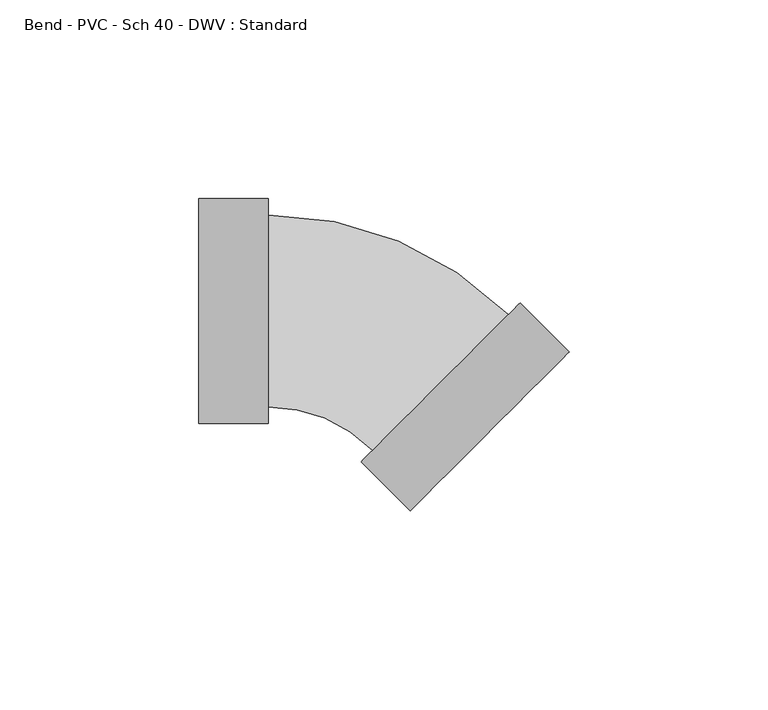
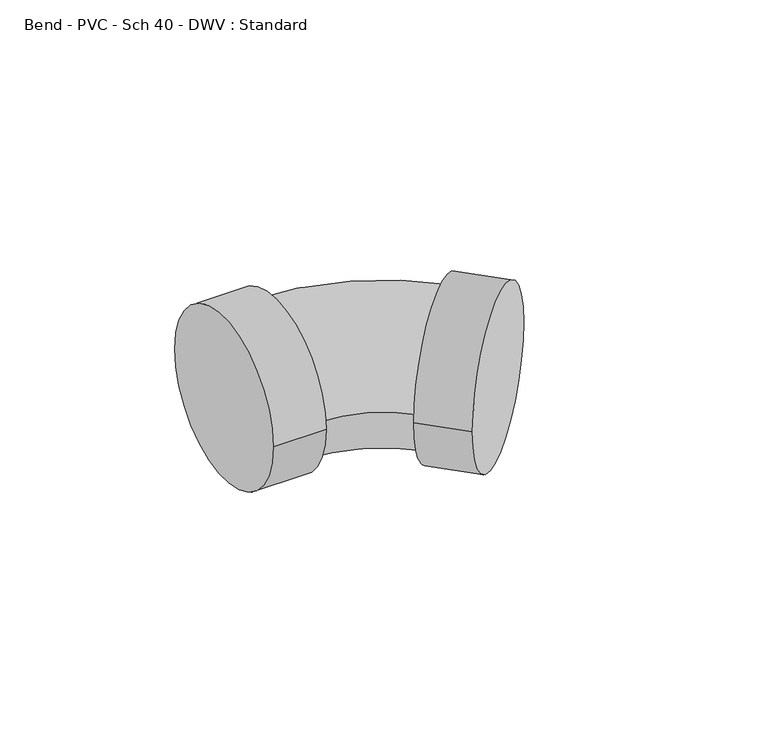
"""IFC4 building model written with IfcOpenShell, lengths in millimetres: pipe fitting geometry, Bend - PVC - Sch 40 - DWV : Standard."""

from ifc_helpers import new_model, si_unit, point, frame, origin, place, context, project, spatial, circle_curve, ellipse_curve, trimmed, source, transform, mapped, element, save
from ifc_brep_helpers import plane_surface, cylinder_surface, revolved_surface, advanced_brep


def bend_pvc_sch_40_dwv_standard_07560f8e(model_context):
    return source(origin(), model_context, "Body", "AdvancedBrep", [
        advanced_brep(
        [(-42.8498, 28.2829, 0.0), (-42.8498, -28.2829, 0.0), (-25.4, 28.2829, 0.0), (-25.4, -28.2829, 0.0), (-25.4, 24.13, 0.0), (-25.4, -24.13, 0.0), (0.8975384, -35.0230114, 0.0), (35.0229864, -0.8985128, 0.0), (37.959571, 2.0379901, 0.0), (-2.0390462, -37.9595143, 0.0), (50.2982712, -10.3010535, 0.0), (10.299654, -50.2985578, 0.0)],
        [
            (0, 1, circle_curve(frame((-42.8498, 0.0, 0.0), z_axis=(-1.0, 0.0, 0.0), x_axis=(0.0, -1.0, 0.0)), 28.2829)),
            (1, 0, circle_curve(frame((-42.8498, 0.0, 0.0), z_axis=(-1.0, 0.0, 0.0), x_axis=(0.0, -1.0, 0.0)), 28.2829)),
            (2, 3, circle_curve(frame((-25.4, 0.0, 0.0), z_axis=(1.0, 0.0, 0.0), x_axis=(0.0, -1.0, 0.0)), 28.2829)),
            (3, 2, circle_curve(frame((-25.4, 0.0, 0.0), z_axis=(1.0, 0.0, 0.0), x_axis=(0.0, -1.0, 0.0)), 28.2829)),
            (4, 5, circle_curve(frame((-25.4, 0.0, 0.0), z_axis=(-1.0, 0.0, 0.0), x_axis=(0.0, -1.0, 0.0)), 24.13)),
            (5, 4, circle_curve(frame((-25.4, 0.0, 0.0), z_axis=(-1.0, 0.0, 0.0), x_axis=(0.0, -1.0, 0.0)), 24.13)),
            (1, 3),
            (2, 0),
            (6, 7, circle_curve(frame((17.9602624, -17.9607621, 0.0), z_axis=(-0.70709694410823, 0.7071166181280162, 0.0), x_axis=(-0.7071166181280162, -0.70709694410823, 0.0)), 24.13)),
            (7, 4, circle_curve(frame((-25.4, -61.3198181, 0.0), z_axis=(0.0, 0.0, 1.0), x_axis=(0.0, 1.0, 0.0)), 85.4498181)),
            (5, 6, circle_curve(frame((-25.4, -61.3198181, 0.0), z_axis=(0.0, 0.0, -1.0), x_axis=(0.0, 1.0, 0.0)), 37.1898181)),
            (7, 6, circle_curve(frame((17.9602624, -17.9607621, 0.0), z_axis=(-0.70709694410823, 0.7071166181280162, 0.0), x_axis=(-0.7071166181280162, -0.70709694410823, 0.0)), 24.13)),
            (8, 9, circle_curve(frame((17.9602624, -17.9607621, 0.0), z_axis=(-0.7070969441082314, 0.7071166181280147, 0.0), x_axis=(-0.7071166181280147, -0.7070969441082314, 0.0)), 28.2829)),
            (9, 8, circle_curve(frame((17.9602624, -17.9607621, 0.0), z_axis=(-0.7070969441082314, 0.7071166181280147, 0.0), x_axis=(-0.7071166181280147, -0.7070969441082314, 0.0)), 28.2829)),
            (10, 11, circle_curve(frame((30.2989626, -30.2998057, 0.0), z_axis=(0.7070969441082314, -0.7071166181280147, 0.0), x_axis=(-0.7071166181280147, -0.7070969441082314, 0.0)), 28.2829)),
            (11, 10, circle_curve(frame((30.2989626, -30.2998057, 0.0), z_axis=(0.7070969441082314, -0.7071166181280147, 0.0), x_axis=(-0.7071166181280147, -0.7070969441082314, 0.0)), 28.2829)),
            (9, 11),
            (10, 8),
        ],
        [
            plane_surface(frame((-42.8498, 0.0, 0.0), z_axis=(-1.0, 0.0, 0.0), x_axis=(0.0, 0.0, 1.0))),
            plane_surface(frame((-25.4, 0.0, 0.0), z_axis=(1.0, 0.0, 0.0), x_axis=(0.0, 0.0, 1.0))),
            cylinder_surface(frame((-42.8498, 0.0, 0.0), z_axis=(-1.0, 0.0, 0.0), x_axis=(0.0, -1.0, 0.0)), 28.2829),
            revolved_surface(trimmed(ellipse_curve(frame((-25.4, 0.0, 0.0), z_axis=(1.0, 0.0, 0.0), x_axis=(0.0, -1.0, 0.0)), 24.13, 24.13), [point((-25.4, 24.13, 0.0))], [point((-25.4, -24.13, 0.0))], True, "CARTESIAN"), (-25.4, -61.3198181, 0.0), (0.0, 0.0, 1.0)),
            revolved_surface(trimmed(ellipse_curve(frame((-25.4, 0.0, 0.0), z_axis=(1.0, 0.0, 0.0), x_axis=(0.0, -1.0, 0.0)), 24.13, 24.13), [point((-25.4, -24.13, 0.0))], [point((-25.4, 24.13, 0.0))], True, "CARTESIAN"), (-25.4, -61.3198181, 0.0), (0.0, 0.0, 1.0)),
            plane_surface(frame((17.9602624, -17.9607621, 0.0), z_axis=(-0.7070969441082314, 0.7071166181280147, 0.0), x_axis=(0.0, 0.0, 1.0))),
            plane_surface(frame((30.2989626, -30.2998057, 0.0), z_axis=(0.7070969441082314, -0.7071166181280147, 0.0), x_axis=(0.0, 0.0, 1.0))),
            cylinder_surface(frame((17.9602624, -17.9607621, 0.0), z_axis=(-0.7070969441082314, 0.7071166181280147, 0.0), x_axis=(-0.7071166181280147, -0.7070969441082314, 0.0)), 28.2829),
        ],
        [
            (0, [[1, 2]]),
            (1, [[3, 4], [5, 6]]),
            (2, [[7, -3, 8, -2]]),
            (2, [[-8, -4, -7, -1]]),
            (3, [[9, 10, -6, 11]]),
            (4, [[-5, -10, 12, -11]]),
            (5, [[13, 14], [-12, -9]]),
            (6, [[15, 16]]),
            (7, [[17, -15, 18, -14]]),
            (7, [[-18, -16, -17, -13]]),
        ],
    ),
    ])


if __name__ == "__main__":
    model = new_model("IFC4")
    model_context = context("Model", 3, world=origin())
    ifc_project = project(units=[si_unit("LENGTHUNIT", "METRE", prefix="MILLI")], contexts=[model_context])
    site = spatial("IfcSite", under=ifc_project)
    building = spatial("IfcBuilding", under=site)
    placement = place(None, origin())
    bend_pvc_sch_40_dwv_standard_shape = bend_pvc_sch_40_dwv_standard_07560f8e(model_context)
    element("IfcPipeFitting", 1, ObjectType="Bend - PVC - Sch 40 - DWV : Standard", at=placement, inside=building, context=model_context, shape_type="MappedRepresentation", body=[
        mapped(bend_pvc_sch_40_dwv_standard_shape, transform((0.0, 0.0, 0.0), x_axis=(1.0, 0.0, 0.0), y_axis=(0.0, 1.0, 0.0), z_axis=(0.0, 0.0, 1.0))),
    ])
    save(model, "model.ifc")
